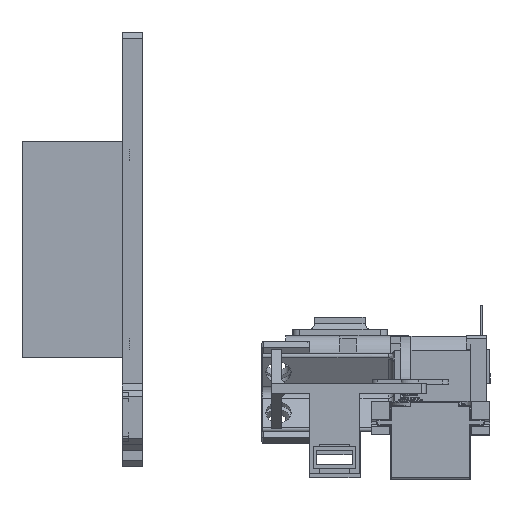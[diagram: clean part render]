
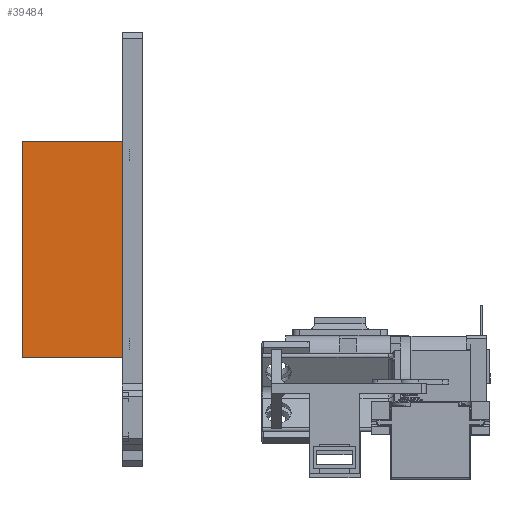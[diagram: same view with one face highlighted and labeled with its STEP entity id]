
A CAD part, front view. The second image highlights one B-rep face of the part: STEP entity #39484.
In plain terms, the highlighted planar face has unit normal (0, -1, 0).
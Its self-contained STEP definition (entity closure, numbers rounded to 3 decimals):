
#953 = DIRECTION ( 'NONE',  ( 1., 0., 0. ) ) ;
#1077 = LINE ( 'NONE', #34475, #34638 ) ;
#3431 = CARTESIAN_POINT ( 'NONE',  ( 54., -50., 50. ) ) ;
#3847 = DIRECTION ( 'NONE',  ( 0., 0., 1. ) ) ;
#6477 = EDGE_CURVE ( 'NONE', #80031, #21797, #82412, .T. ) ;
#12179 = ORIENTED_EDGE ( 'NONE', *, *, #6477, .T. ) ;
#14729 = DIRECTION ( 'NONE',  ( 0., 0., -1. ) ) ;
#20289 = CARTESIAN_POINT ( 'NONE',  ( 54., -50., 50. ) ) ;
#21797 = VERTEX_POINT ( 'NONE', #56237 ) ;
#23897 = FACE_OUTER_BOUND ( 'NONE', #51118, .T. ) ;
#27621 = EDGE_CURVE ( 'NONE', #80031, #62431, #1077, .T. ) ;
#27862 = LINE ( 'NONE', #20289, #65719 ) ;
#33301 = CARTESIAN_POINT ( 'NONE',  ( 54., -50., 0. ) ) ;
#34475 = CARTESIAN_POINT ( 'NONE',  ( 54., -50., 50. ) ) ;
#34638 = VECTOR ( 'NONE', #61672, 1000. ) ;
#39484 = ADVANCED_FACE ( 'NONE', ( #23897 ), #64869, .F. ) ;
#46378 = AXIS2_PLACEMENT_3D ( 'NONE', #3431, #57771, #3847 ) ;
#47100 = ORIENTED_EDGE ( 'NONE', *, *, #67143, .T. ) ;
#47469 = DIRECTION ( 'NONE',  ( 0., 0., -1. ) ) ;
#48149 = LINE ( 'NONE', #61984, #74825 ) ;
#51118 = EDGE_LOOP ( 'NONE', ( #47100, #60503, #51164, #12179 ) ) ;
#51164 = ORIENTED_EDGE ( 'NONE', *, *, #27621, .F. ) ;
#54127 = CARTESIAN_POINT ( 'NONE',  ( -54., -50., 50. ) ) ;
#55842 = VECTOR ( 'NONE', #14729, 1000. ) ;
#56237 = CARTESIAN_POINT ( 'NONE',  ( -54., -50., 0. ) ) ;
#57771 = DIRECTION ( 'NONE',  ( 0., 1., 0. ) ) ;
#58065 = CARTESIAN_POINT ( 'NONE',  ( 54., -50., 50. ) ) ;
#60503 = ORIENTED_EDGE ( 'NONE', *, *, #74441, .F. ) ;
#61672 = DIRECTION ( 'NONE',  ( 1., 0., 0. ) ) ;
#61984 = CARTESIAN_POINT ( 'NONE',  ( 54., -50., 0. ) ) ;
#62431 = VERTEX_POINT ( 'NONE', #58065 ) ;
#64869 = PLANE ( 'NONE',  #46378 ) ;
#65719 = VECTOR ( 'NONE', #47469, 1000. ) ;
#67143 = EDGE_CURVE ( 'NONE', #21797, #72821, #48149, .T. ) ;
#72821 = VERTEX_POINT ( 'NONE', #33301 ) ;
#74441 = EDGE_CURVE ( 'NONE', #62431, #72821, #27862, .T. ) ;
#74825 = VECTOR ( 'NONE', #953, 1000. ) ;
#80031 = VERTEX_POINT ( 'NONE', #54127 ) ;
#81976 = CARTESIAN_POINT ( 'NONE',  ( -54., -50., 50. ) ) ;
#82412 = LINE ( 'NONE', #81976, #55842 ) ;
